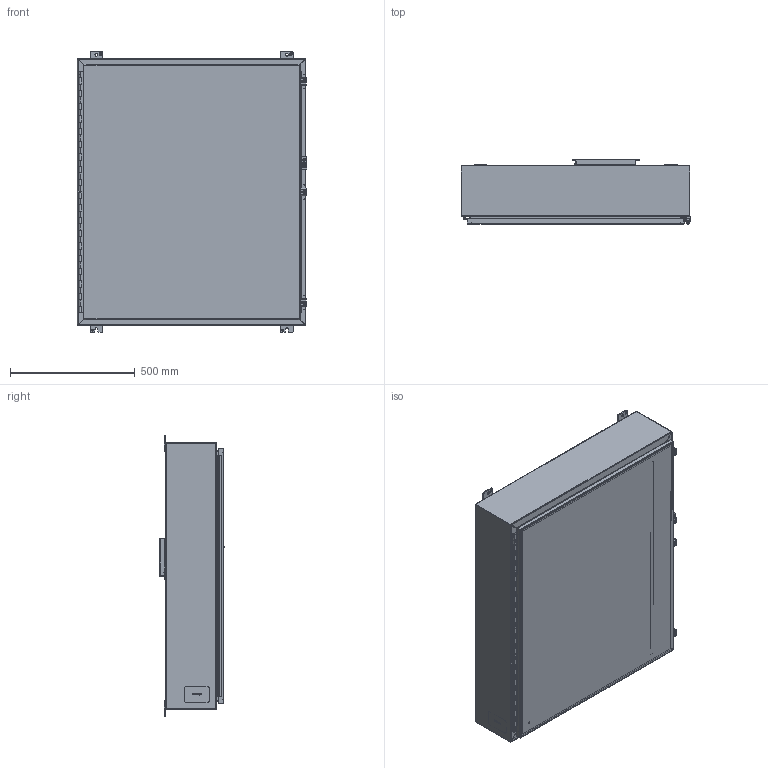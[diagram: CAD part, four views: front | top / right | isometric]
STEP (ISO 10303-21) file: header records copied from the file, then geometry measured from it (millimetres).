
FILE_DESCRIPTION(/* description */ ('Unknown'),/* implementation_level */ '2;1');
FILE_NAME(/* name */ '1418P8LP',/* time_stamp */ '2026-02-20T16:36:19-05:00',/* author */ ('Unknown'),/* organization */ ('Unknown'),/* preprocessor_version */ 'ST-DEVELOPER v18.104',/* originating_system */ 'Solid Edge',/* authorisation */ 'Unknown');
FILE_SCHEMA (('AUTOMOTIVE_DESIGN {1 0 10303 214 3 1 1}'));
Length unit declared in the file: millimetre
Products named in the file (32): 1418P8LP; STD26094; STD21878; COM42780; HNG10620-38P; COM40153-1; COM71782-3; COM40153-2; COM53845-2; HNG10620-38C; COM70219_oa_0; PNT11078; COM48448; FET07710; AKT90223; SPR20265; SCC19011; WAF25035; COM42667; KIT90256; LAB30005; NTS165305; NTS16535; HNG10620-38B; BUL10020; QLB30109; PKT99; KIT90521; WAF25059; NTS166105; QLB20254
Assembly tree (47 placements, depth 3):
  1418P8LP
    STD26094  x8
    STD21878
    COM42780  x3
    HNG10620-38P
    COM40153-1
    COM71782-3
      COM40153-2
      COM53845-2
      COM71782-3
      STD21878
      HNG10620-38C
      COM70219_oa_0
      PNT11078
    COM48448
    FET07710  x4
    AKT90223  x3
      SPR20265
      SCC19011
      WAF25035
      COM42667
    KIT90256
      LAB30005
      NTS165305
      NTS16535
    HNG10620-38B
    BUL10020
    QLB30109
    PKT99
    KIT90521
      WAF25059
      NTS166105
    QLB20254
    PNT11078
Bounding box: 917.58 x 257.18 x 1123.95 mm (x, y, z)
Volume: 6006814.7 mm3; surface area: 6547085.5 mm2
Topology: 45 solids, 46 shells, 1584 faces, 4083 edges, 2652 vertices
Faces by surface type: plane 1034, cylinder 407, bspline 77, torus 34, cone 30, sphere 2
Full cylindrical faces by diameter (mm): 3.175 x1, 4.763 x1, 4.976 x1, 5.41 x3, 6.198 x3, 6.35 x3, 6.731 x3, 7.137 x2, 7.805 x1, 7.938 x4, 8.382 x8, 9.525 x8, 9.906 x3, 11.113 x4, 11.303 x1, 12.7 x3, 16.51 x8, 25.4 x1, 88.9 x1
Entity records: 38031 total; most frequent: CARTESIAN_POINT 10733, ORIENTED_EDGE 5590, DIRECTION 5124, EDGE_CURVE 2795, LINE 1828, VECTOR 1828, VERTEX_POINT 1825, AXIS2_PLACEMENT_3D 1648
